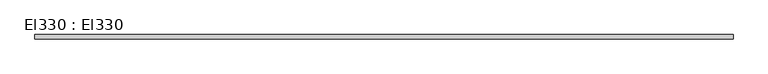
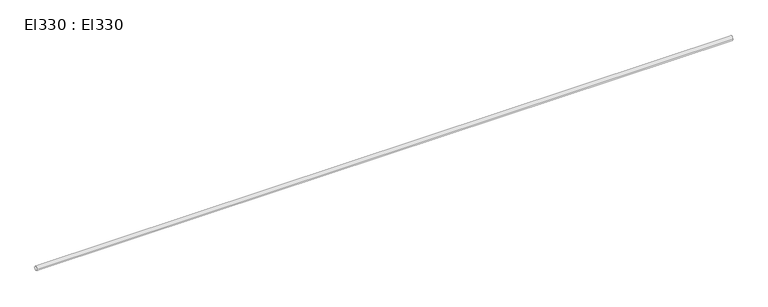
"""IFC4 building model written with IfcOpenShell, lengths in millimetres: cable carrier segment geometry, El330 : El330."""

from ifc_helpers import new_model, si_unit, point, frame, frame_2d, origin, place, context, project, spatial, circle_curve, trimmed, segment, composite_curve, outline, extrude, source, transform, mapped, element, save


def el330_el330_363b4c1c(model_context):
    return source(origin(), model_context, "Body", "SweptSolid", [
        extrude(outline(composite_curve([segment(trimmed(circle_curve(frame_2d((12134.6, 2950.0)), 9.5), [point((12125.1, 2950.0))], [point((12144.1, 2950.0))], False, "CARTESIAN"), True, "CONTINUOUS"), segment(trimmed(circle_curve(frame_2d((12134.6, 2950.0)), 9.5), [point((12144.1, 2950.0))], [point((12125.1, 2950.0))], False, "CARTESIAN"), True, "CONTINUOUS")], self_intersect=False)), frame((8226.1, 0.0, 0.0), z_axis=(1.0, 0.0, 0.0), x_axis=(0.0, 1.0, 0.0)), (0.0, 0.0, 1.0), 3050.0),
    ])


if __name__ == "__main__":
    model = new_model("IFC4")
    model_context = context("Model", 3, world=origin())
    ifc_project = project(units=[si_unit("LENGTHUNIT", "METRE", prefix="MILLI")], contexts=[model_context])
    site = spatial("IfcSite", under=ifc_project)
    building = spatial("IfcBuilding", under=site)
    placement = place(None, origin())
    el330_el330_shape = el330_el330_363b4c1c(model_context)
    element("IfcCableCarrierSegment", 1, ObjectType="El330 : El330", at=placement, inside=building, context=model_context, shape_type="MappedRepresentation", body=[
        mapped(el330_el330_shape, transform((0.0, 0.0, 0.0), x_axis=(1.0, 0.0, 0.0), y_axis=(0.0, 1.0, 0.0), z_axis=(0.0, 0.0, 1.0))),
    ])
    save(model, "model.ifc")
